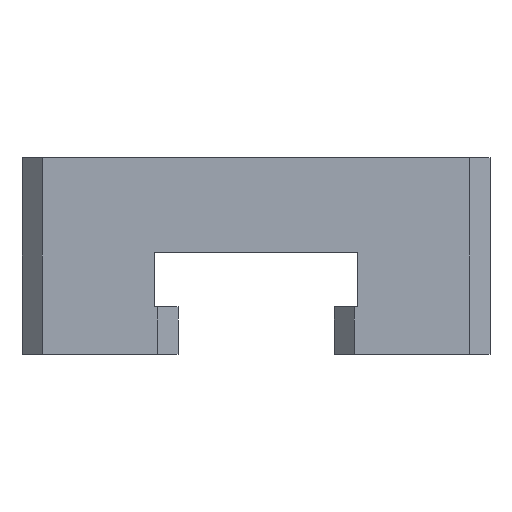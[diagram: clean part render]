
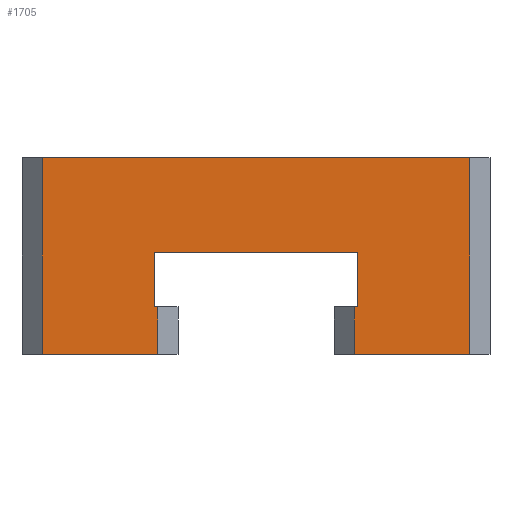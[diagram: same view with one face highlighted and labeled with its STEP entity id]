
A CAD part, front view. The second image highlights one B-rep face of the part: STEP entity #1705.
In plain terms, the highlighted planar face has unit normal (0, -1, 0).
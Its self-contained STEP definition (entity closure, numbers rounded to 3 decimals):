
#4 = CARTESIAN_POINT ( 'NONE',  ( -14.5, 0., 0. ) ) ;
#12 = FACE_OUTER_BOUND ( 'NONE', #669, .T. ) ;
#25 = DIRECTION ( 'NONE',  ( -1., 0., 0. ) ) ;
#35 = LINE ( 'NONE', #668, #1370 ) ;
#40 = EDGE_CURVE ( 'NONE', #1936, #1002, #932, .T. ) ;
#73 = DIRECTION ( 'NONE',  ( 0., 0., 1. ) ) ;
#114 = VERTEX_POINT ( 'NONE', #1287 ) ;
#120 = CARTESIAN_POINT ( 'NONE',  ( 31.5, 0., 0. ) ) ;
#122 = ORIENTED_EDGE ( 'NONE', *, *, #40, .F. ) ;
#148 = CARTESIAN_POINT ( 'NONE',  ( -15., 0., -14. ) ) ;
#202 = ORIENTED_EDGE ( 'NONE', *, *, #1139, .T. ) ;
#269 = CARTESIAN_POINT ( 'NONE',  ( 31.5, 0., 0. ) ) ;
#329 = DIRECTION ( 'NONE',  ( 0., 0., -1. ) ) ;
#339 = VECTOR ( 'NONE', #1737, 1000. ) ;
#340 = ORIENTED_EDGE ( 'NONE', *, *, #1328, .F. ) ;
#407 = VECTOR ( 'NONE', #25, 1000. ) ;
#411 = VERTEX_POINT ( 'NONE', #1559 ) ;
#438 = CARTESIAN_POINT ( 'NONE',  ( 15., 0., -14. ) ) ;
#460 = EDGE_CURVE ( 'NONE', #2051, #1936, #1868, .T. ) ;
#472 = ORIENTED_EDGE ( 'NONE', *, *, #1592, .F. ) ;
#517 = ORIENTED_EDGE ( 'NONE', *, *, #983, .F. ) ;
#538 = VERTEX_POINT ( 'NONE', #1237 ) ;
#603 = ORIENTED_EDGE ( 'NONE', *, *, #1527, .F. ) ;
#605 = ORIENTED_EDGE ( 'NONE', *, *, #1094, .F. ) ;
#610 = ORIENTED_EDGE ( 'NONE', *, *, #1048, .T. ) ;
#618 = DIRECTION ( 'NONE',  ( 0., 1., 0. ) ) ;
#625 = DIRECTION ( 'NONE',  ( 1., 0., 0. ) ) ;
#636 = PLANE ( 'NONE',  #1448 ) ;
#644 = CARTESIAN_POINT ( 'NONE',  ( 15., 0., -22. ) ) ;
#648 = CARTESIAN_POINT ( 'NONE',  ( 31.5, 0., -29. ) ) ;
#658 = CARTESIAN_POINT ( 'NONE',  ( 11.5, 0., -29. ) ) ;
#668 = CARTESIAN_POINT ( 'NONE',  ( 15., 0., -14. ) ) ;
#669 = EDGE_LOOP ( 'NONE', ( #603, #610, #517, #202, #340, #880, #472, #2005, #122, #803, #1432, #605 ) ) ;
#706 = VERTEX_POINT ( 'NONE', #1441 ) ;
#743 = DIRECTION ( 'NONE',  ( 0., 0., -1. ) ) ;
#771 = VECTOR ( 'NONE', #329, 1000. ) ;
#794 = LINE ( 'NONE', #4, #1683 ) ;
#803 = ORIENTED_EDGE ( 'NONE', *, *, #460, .F. ) ;
#837 = VERTEX_POINT ( 'NONE', #648 ) ;
#871 = CARTESIAN_POINT ( 'NONE',  ( -15., 0., -14. ) ) ;
#880 = ORIENTED_EDGE ( 'NONE', *, *, #1033, .T. ) ;
#894 = CARTESIAN_POINT ( 'NONE',  ( -34.5, 0., -29. ) ) ;
#907 = LINE ( 'NONE', #120, #1505 ) ;
#932 = LINE ( 'NONE', #2060, #1983 ) ;
#933 = LINE ( 'NONE', #148, #1741 ) ;
#942 = LINE ( 'NONE', #1872, #339 ) ;
#970 = CARTESIAN_POINT ( 'NONE',  ( -14.5, 0., -29. ) ) ;
#983 = EDGE_CURVE ( 'NONE', #837, #411, #1785, .T. ) ;
#1002 = VERTEX_POINT ( 'NONE', #1606 ) ;
#1003 = CARTESIAN_POINT ( 'NONE',  ( 14.5, 0., 0. ) ) ;
#1033 = EDGE_CURVE ( 'NONE', #114, #1682, #1324, .T. ) ;
#1048 = EDGE_CURVE ( 'NONE', #538, #411, #1117, .T. ) ;
#1092 = DIRECTION ( 'NONE',  ( 0., 0., 1. ) ) ;
#1094 = EDGE_CURVE ( 'NONE', #706, #1361, #35, .T. ) ;
#1117 = LINE ( 'NONE', #1003, #1334 ) ;
#1139 = EDGE_CURVE ( 'NONE', #837, #1657, #907, .T. ) ;
#1223 = CARTESIAN_POINT ( 'NONE',  ( 0., 0., 0. ) ) ;
#1237 = CARTESIAN_POINT ( 'NONE',  ( 14.5, 0., -22. ) ) ;
#1263 = DIRECTION ( 'NONE',  ( 0., 0., 1. ) ) ;
#1287 = CARTESIAN_POINT ( 'NONE',  ( -31.5, 0., 0. ) ) ;
#1288 = EDGE_CURVE ( 'NONE', #1361, #2051, #933, .T. ) ;
#1307 = VECTOR ( 'NONE', #1528, 1000. ) ;
#1311 = LINE ( 'NONE', #644, #1957 ) ;
#1320 = LINE ( 'NONE', #894, #1307 ) ;
#1324 = LINE ( 'NONE', #1973, #771 ) ;
#1328 = EDGE_CURVE ( 'NONE', #114, #1657, #942, .T. ) ;
#1334 = VECTOR ( 'NONE', #1646, 1000. ) ;
#1361 = VERTEX_POINT ( 'NONE', #438 ) ;
#1370 = VECTOR ( 'NONE', #1944, 1000. ) ;
#1412 = DIRECTION ( 'NONE',  ( -1., 0., 0. ) ) ;
#1415 = CARTESIAN_POINT ( 'NONE',  ( -31.5, 0., -29. ) ) ;
#1416 = VECTOR ( 'NONE', #743, 1000. ) ;
#1432 = ORIENTED_EDGE ( 'NONE', *, *, #1288, .F. ) ;
#1441 = CARTESIAN_POINT ( 'NONE',  ( 15., 0., -22. ) ) ;
#1448 = AXIS2_PLACEMENT_3D ( 'NONE', #1223, #618, #1092 ) ;
#1505 = VECTOR ( 'NONE', #73, 1000. ) ;
#1527 = EDGE_CURVE ( 'NONE', #538, #706, #1311, .T. ) ;
#1528 = DIRECTION ( 'NONE',  ( -1., 0., 0. ) ) ;
#1535 = CARTESIAN_POINT ( 'NONE',  ( -15., 0., -22. ) ) ;
#1559 = CARTESIAN_POINT ( 'NONE',  ( 14.5, 0., -29. ) ) ;
#1592 = EDGE_CURVE ( 'NONE', #1817, #1682, #1320, .T. ) ;
#1606 = CARTESIAN_POINT ( 'NONE',  ( -14.5, 0., -22. ) ) ;
#1646 = DIRECTION ( 'NONE',  ( 0., 0., -1. ) ) ;
#1657 = VERTEX_POINT ( 'NONE', #269 ) ;
#1680 = EDGE_CURVE ( 'NONE', #1817, #1002, #794, .T. ) ;
#1682 = VERTEX_POINT ( 'NONE', #1415 ) ;
#1683 = VECTOR ( 'NONE', #1263, 1000. ) ;
#1705 = ADVANCED_FACE ( 'NONE', ( #12 ), #636, .F. ) ;
#1737 = DIRECTION ( 'NONE',  ( 1., 0., 0. ) ) ;
#1741 = VECTOR ( 'NONE', #1412, 1000. ) ;
#1759 = DIRECTION ( 'NONE',  ( 1., 0., 0. ) ) ;
#1785 = LINE ( 'NONE', #658, #407 ) ;
#1817 = VERTEX_POINT ( 'NONE', #970 ) ;
#1868 = LINE ( 'NONE', #1535, #1416 ) ;
#1872 = CARTESIAN_POINT ( 'NONE',  ( 34.5, 0., 0. ) ) ;
#1936 = VERTEX_POINT ( 'NONE', #2004 ) ;
#1944 = DIRECTION ( 'NONE',  ( 0., 0., 1. ) ) ;
#1957 = VECTOR ( 'NONE', #1759, 1000. ) ;
#1973 = CARTESIAN_POINT ( 'NONE',  ( -31.5, 0., 0. ) ) ;
#1983 = VECTOR ( 'NONE', #625, 1000. ) ;
#2004 = CARTESIAN_POINT ( 'NONE',  ( -15., 0., -22. ) ) ;
#2005 = ORIENTED_EDGE ( 'NONE', *, *, #1680, .T. ) ;
#2051 = VERTEX_POINT ( 'NONE', #871 ) ;
#2060 = CARTESIAN_POINT ( 'NONE',  ( -11.5, 0., -22. ) ) ;
